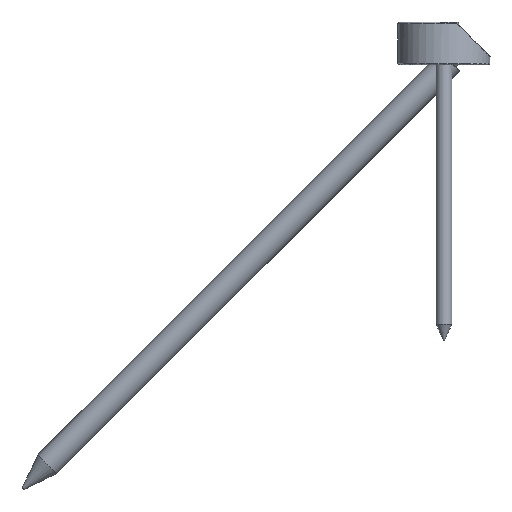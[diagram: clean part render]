
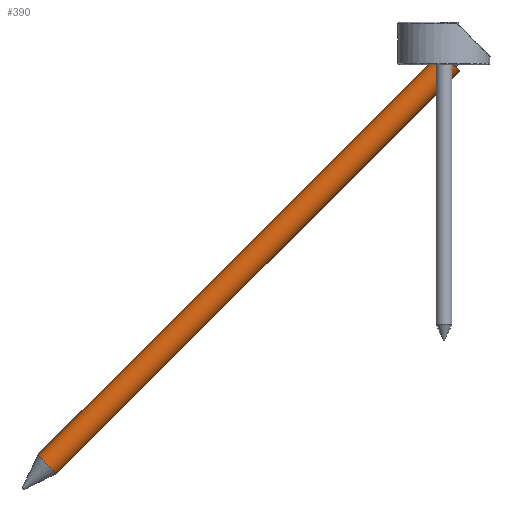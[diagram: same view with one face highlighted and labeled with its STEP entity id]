
A CAD part, left-side view. The second image highlights one B-rep face of the part: STEP entity #390.
In plain terms, the highlighted cylindrical face has radius 5 mm (diameter 10 mm), a full revolution.
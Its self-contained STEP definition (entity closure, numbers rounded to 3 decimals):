
#59=CYLINDRICAL_SURFACE('',#480,5.);
#91=CIRCLE('',#479,5.);
#92=CIRCLE('',#481,5.);
#165=ORIENTED_EDGE('',*,*,#206,.T.);
#166=ORIENTED_EDGE('',*,*,#205,.F.);
#205=EDGE_CURVE('',#238,#238,#91,.T.);
#206=EDGE_CURVE('',#239,#239,#92,.T.);
#238=VERTEX_POINT('',#733);
#239=VERTEX_POINT('',#736);
#297=EDGE_LOOP('',(#165));
#298=EDGE_LOOP('',(#166));
#350=FACE_BOUND('',#297,.T.);
#351=FACE_BOUND('',#298,.T.);
#390=ADVANCED_FACE('',(#350,#351),#59,.T.);
#479=AXIS2_PLACEMENT_3D('',#732,#602,#603);
#480=AXIS2_PLACEMENT_3D('',#734,#604,#605);
#481=AXIS2_PLACEMENT_3D('',#735,#606,#607);
#602=DIRECTION('',(0.,1.,0.));
#603=DIRECTION('',(0.,0.,1.));
#604=DIRECTION('',(0.,1.,0.));
#605=DIRECTION('',(0.,0.,1.));
#606=DIRECTION('',(0.,1.,0.));
#607=DIRECTION('',(0.,0.,1.));
#732=CARTESIAN_POINT('',(0.,42.,0.));
#733=CARTESIAN_POINT('',(0.,42.,5.));
#734=CARTESIAN_POINT('',(0.,54.,0.));
#735=CARTESIAN_POINT('',(0.,-173.,0.));
#736=CARTESIAN_POINT('',(0.,-173.,5.));
